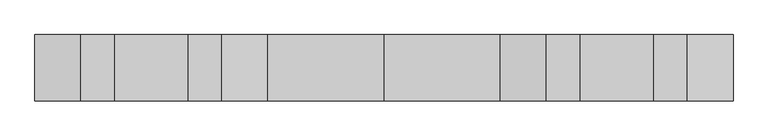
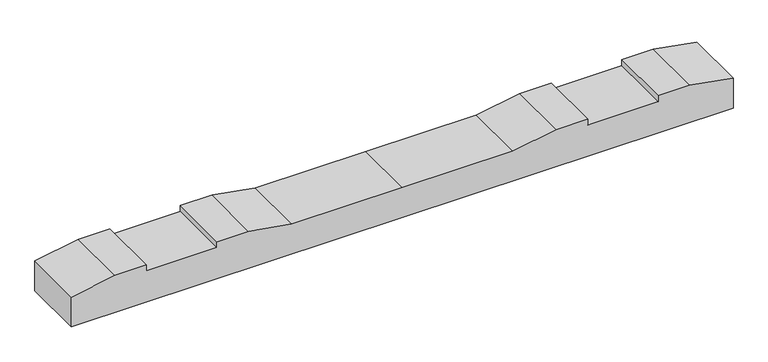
"""IFC4 building model written with IfcOpenShell, lengths in millimetres: proxy geometry, 轨枕-立面角度 : 轨枕-立面角度."""

from ifc_helpers import new_model, si_unit, frame, origin, place, context, project, spatial, polyline, outline, extrude, source, transform, mapped, element, save


def generic_models_187618a6(model_context):
    return source(origin(), model_context, "Body", "SweptSolid", [
        extrude(outline(polyline([(0.0, 0.0), (2099.7669328, 0.0), (2099.7669328, -100.0206889), (1961.8834664, -124.4999999), (1861.8834664, -124.4999999), (1861.8834664, -104.4999999), (1637.8834664, -104.4999999), (1637.8834664, -124.4999999), (1537.8834664, -124.4999999), (1399.8834664, -99.9999999), (1049.8834664, -99.9999999), (699.8834664, -99.9999999), (561.8834664, -124.4999999), (461.8834664, -124.4999999), (461.8834664, -104.4999999), (237.8834664, -104.4999999), (237.8834664, -124.4999999), (137.8834664, -124.4999999), (0.0, -100.0206889), (0.0, 0.0)])), frame((-1049.8834664, -99.9952554, -104.50454), z_axis=(0.0, 0.9999999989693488, 4.540157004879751e-05), x_axis=(1.0, 0.0, 0.0)), (0.0, 0.0, 1.0), 200.0),
    ])


if __name__ == "__main__":
    model = new_model("IFC4")
    model_context = context("Model", 3, world=origin())
    ifc_project = project(units=[si_unit("LENGTHUNIT", "METRE", prefix="MILLI")], contexts=[model_context])
    site = spatial("IfcSite", under=ifc_project)
    building = spatial("IfcBuilding", under=site)
    placement = place(None, origin())
    generic_models_shape = generic_models_187618a6(model_context)
    element("IfcBuildingElementProxy", 1, Name="轨枕-立面角度 : 轨枕-立面角度", ObjectType="轨枕-立面角度 : 轨枕-立面角度", at=placement, inside=building, context=model_context, shape_type="MappedRepresentation", body=[
        mapped(generic_models_shape, transform((0.0, 0.0, 0.0), x_axis=(1.0, 0.0, 0.0), y_axis=(0.0, 1.0, 0.0), z_axis=(0.0, 0.0, 1.0))),
    ])
    save(model, "model.ifc")
